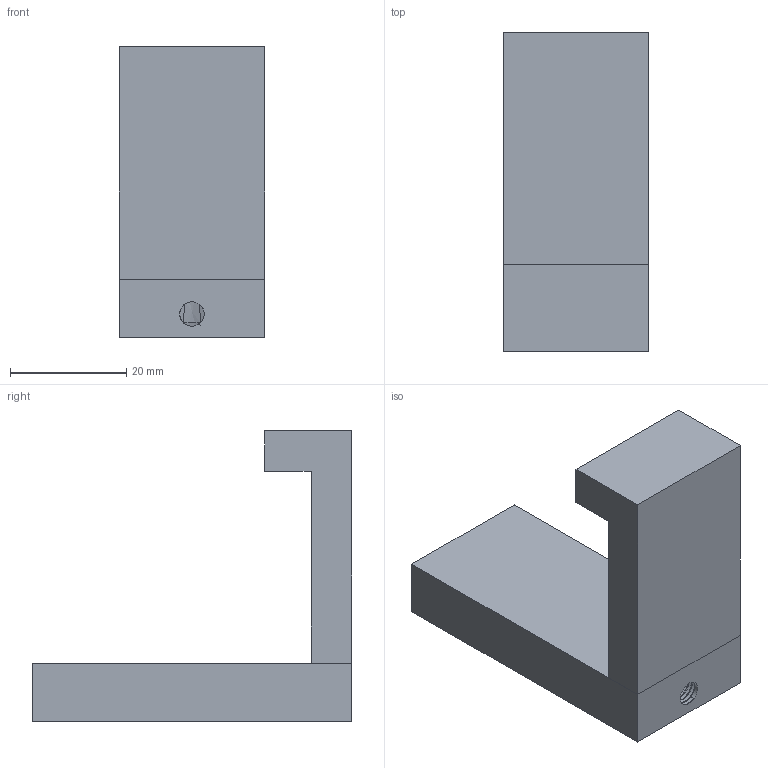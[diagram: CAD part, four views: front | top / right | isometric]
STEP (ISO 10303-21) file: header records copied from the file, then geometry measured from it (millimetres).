
FILE_DESCRIPTION(/* description */ (''),/* implementation_level */ '2;1');
FILE_NAME(/* name */ 'c:\worker\convert-fusion-r05\tmp\job-1\10\output\files\dac3da74-6ca4-49cc-9748-f1ae536af385\fa6f8e1c-df35-4e4e-811c-c9e38825966d.stp',/* time_stamp */ '2019-07-12T08:57:55+00:00',/* author */ (''),/* organization */ (''),/* preprocessor_version */ 'ST-DEVELOPER v18',/* originating_system */ 'Autodesk Translation Framework v8.2.0.1029',/* authorisation */ '');
FILE_SCHEMA (('AUTOMOTIVE_DESIGN { 1 0 10303 214 3 1 1 }'));
Length unit declared in the file: millimetre
Products named in the file (1): !RN42110
Bounding box: 25 x 55 x 50 mm (x, y, z)
Volume: 14417.6 mm3; surface area: 11442.7 mm2
Topology: 3 solids, 3 shells, 144 faces, 371 edges, 235 vertices
Faces by surface type: plane 54, cylinder 45, cone 15, torus 12, bspline 10, sphere 8
Full cylindrical faces by diameter (mm): 3.3 x2, 4.2 x8, 5 x5
Entity records: 5932 total; most frequent: CARTESIAN_POINT 2418, ORIENTED_EDGE 738, DIRECTION 718, EDGE_CURVE 369, AXIS2_PLACEMENT_3D 266, VERTEX_POINT 235, LINE 186, VECTOR 186
